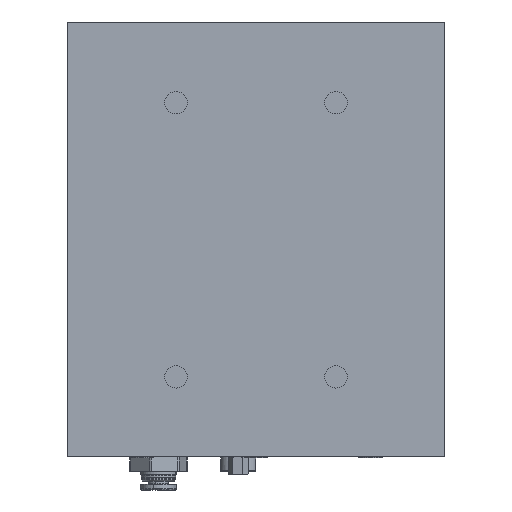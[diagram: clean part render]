
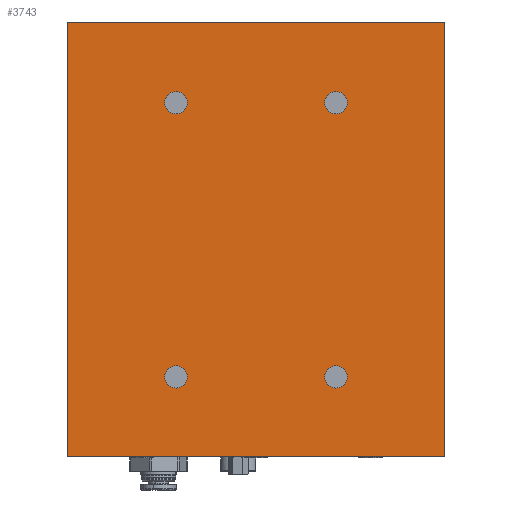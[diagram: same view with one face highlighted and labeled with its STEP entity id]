
A CAD part, left-side view. The second image highlights one B-rep face of the part: STEP entity #3743.
In plain terms, the highlighted planar face has unit normal (-1, 0, 0).
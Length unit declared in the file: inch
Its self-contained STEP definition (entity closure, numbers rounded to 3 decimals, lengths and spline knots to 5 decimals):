
#546 = DIRECTION ( 'NONE',  ( 0., 0., -1. ) ) ;
#632 = DIRECTION ( 'NONE',  ( -1., 0., 0. ) ) ;
#1120 = FACE_BOUND ( 'NONE', #7177, .T. ) ;
#1229 = CARTESIAN_POINT ( 'NONE',  ( -9.625, 2.9375, -1.37697 ) ) ;
#1510 = ORIENTED_EDGE ( 'NONE', *, *, #13545, .F. ) ;
#1697 = CARTESIAN_POINT ( 'NONE',  ( -9.625, 1.1875, -1.37697 ) ) ;
#1887 = DIRECTION ( 'NONE',  ( 0., 0., -1. ) ) ;
#1955 = EDGE_CURVE ( 'Defeatured_0_548+Defeatured_0_568+Defeatured_0_564+Defeatured_0_569', #22444, #22068, #7342, .T. ) ;
#2046 = VECTOR ( 'NONE', #8827, 39.37008 ) ;
#2128 = EDGE_CURVE ( 'Defeatured_0_548+Defeatured_0_569+Defeatured_0_568+Defeatured_0_547', #22068, #15939, #13067, .T. ) ;
#2336 = CARTESIAN_POINT ( 'NONE',  ( -9.625, 4.125, 2.375 ) ) ;
#2383 = VERTEX_POINT ( 'NONE', #1697 ) ;
#3063 = CARTESIAN_POINT ( 'NONE',  ( -9.625, 1.1875, 1.37697 ) ) ;
#3220 = AXIS2_PLACEMENT_3D ( 'NONE', #23718, #7415, #14685 ) ;
#3332 = CARTESIAN_POINT ( 'NONE',  ( -9.625, 1.1875, -1.5 ) ) ;
#3648 = CARTESIAN_POINT ( 'NONE',  ( -9.625, 0., -2.375 ) ) ;
#3743 = ADVANCED_FACE ( 'Defeatured_0_548', ( #1120, #15362, #10709, #20576, #13600 ), #4051, .T. ) ;
#3867 = CARTESIAN_POINT ( 'NONE',  ( -9.625, 1.1875, 1.62303 ) ) ;
#3907 = EDGE_CURVE ( 'Defeatured_0_548+Defeatured_0_564+Defeatured_0_547+Defeatured_0_568', #23270, #22444, #16783, .T. ) ;
#3999 = ORIENTED_EDGE ( 'NONE', *, *, #18753, .F. ) ;
#4051 = PLANE ( 'NONE',  #23693 ) ;
#4094 = VECTOR ( 'NONE', #23216, 39.37008 ) ;
#4377 = CIRCLE ( 'NONE', #19858, 0.12303 ) ;
#4450 = CARTESIAN_POINT ( 'NONE',  ( -9.625, 0., 2.375 ) ) ;
#4692 = DIRECTION ( 'NONE',  ( 0., 0., -1. ) ) ;
#5069 = CARTESIAN_POINT ( 'NONE',  ( -9.625, 2.9375, -1.62303 ) ) ;
#5488 = CIRCLE ( 'NONE', #15885, 0.12303 ) ;
#5526 = CARTESIAN_POINT ( 'NONE',  ( -9.625, 2.9375, -1.5 ) ) ;
#5925 = ORIENTED_EDGE ( 'NONE', *, *, #2128, .T. ) ;
#6051 = AXIS2_PLACEMENT_3D ( 'NONE', #19071, #632, #15489 ) ;
#6365 = EDGE_LOOP ( 'NONE', ( #5925, #12159, #23681, #22096 ) ) ;
#6372 = CARTESIAN_POINT ( 'NONE',  ( -9.625, 0., -2.375 ) ) ;
#6380 = AXIS2_PLACEMENT_3D ( 'NONE', #23081, #10026, #22931 ) ;
#6397 = EDGE_CURVE ( 'Defeatured_0_619+Defeatured_0_548+Defeatured_0_548+Defeatured_0_548', #23461, #19072, #20620, .T. ) ;
#6962 = VECTOR ( 'NONE', #23129, 39.37008 ) ;
#7177 = EDGE_LOOP ( 'NONE', ( #8355, #1510 ) ) ;
#7342 = LINE ( 'NONE', #4450, #2046 ) ;
#7415 = DIRECTION ( 'NONE',  ( -1., 0., 0. ) ) ;
#7423 = VERTEX_POINT ( 'NONE', #1229 ) ;
#8355 = ORIENTED_EDGE ( 'NONE', *, *, #20081, .F. ) ;
#8827 = DIRECTION ( 'NONE',  ( 0., 0., 1. ) ) ;
#8863 = VECTOR ( 'NONE', #4692, 39.37008 ) ;
#9125 = DIRECTION ( 'NONE',  ( -1., 0., 0. ) ) ;
#10026 = DIRECTION ( 'NONE',  ( -1., 0., 0. ) ) ;
#10078 = CARTESIAN_POINT ( 'NONE',  ( -9.625, 4.125, -2.375 ) ) ;
#10309 = DIRECTION ( 'NONE',  ( 0., 0., -1. ) ) ;
#10520 = CARTESIAN_POINT ( 'NONE',  ( -9.625, 4.125, 2.375 ) ) ;
#10709 = FACE_BOUND ( 'NONE', #22554, .T. ) ;
#10819 = ORIENTED_EDGE ( 'NONE', *, *, #12358, .F. ) ;
#10930 = DIRECTION ( 'NONE',  ( 0., 0., -1. ) ) ;
#11158 = CARTESIAN_POINT ( 'NONE',  ( -9.625, 2.9375, 1.5 ) ) ;
#11162 = CARTESIAN_POINT ( 'NONE',  ( -9.625, 2.9375, 1.5 ) ) ;
#11173 = DIRECTION ( 'NONE',  ( -1., 0., 0. ) ) ;
#11267 = CIRCLE ( 'NONE', #6380, 0.12303 ) ;
#11841 = DIRECTION ( 'NONE',  ( -1., 0., 0. ) ) ;
#11930 = EDGE_CURVE ( 'Defeatured_0_623+Defeatured_0_548+Defeatured_0_548+Defeatured_0_548', #2383, #18991, #11267, .T. ) ;
#12159 = ORIENTED_EDGE ( 'NONE', *, *, #23554, .T. ) ;
#12358 = EDGE_CURVE ( 'Defeatured_0_621+Defeatured_0_548+Defeatured_0_548+Defeatured_0_548', #7423, #18715, #18508, .T. ) ;
#12795 = CARTESIAN_POINT ( 'NONE',  ( -9.625, 0., 2.375 ) ) ;
#13067 = LINE ( 'NONE', #12795, #4094 ) ;
#13545 = EDGE_CURVE ( 'Defeatured_0_625+Defeatured_0_548+Defeatured_0_548+Defeatured_0_548', #14862, #19135, #15718, .T. ) ;
#13600 = FACE_OUTER_BOUND ( 'NONE', #6365, .T. ) ;
#13612 = CARTESIAN_POINT ( 'NONE',  ( -9.625, 2.9375, 1.62303 ) ) ;
#13840 = CARTESIAN_POINT ( 'NONE',  ( -9.625, 1.1875, 1.5 ) ) ;
#14123 = ORIENTED_EDGE ( 'NONE', *, *, #11930, .F. ) ;
#14538 = EDGE_LOOP ( 'NONE', ( #16159, #18812 ) ) ;
#14549 = CARTESIAN_POINT ( 'NONE',  ( -9.625, 0., 2.375 ) ) ;
#14685 = DIRECTION ( 'NONE',  ( 0., 0., -1. ) ) ;
#14862 = VERTEX_POINT ( 'NONE', #3867 ) ;
#14961 = DIRECTION ( 'NONE',  ( -1., 0., 0. ) ) ;
#15362 = FACE_BOUND ( 'NONE', #19843, .T. ) ;
#15489 = DIRECTION ( 'NONE',  ( 0., 0., -1. ) ) ;
#15508 = EDGE_CURVE ( 'Defeatured_0_621+Defeatured_0_548+Defeatured_0_548+Defeatured_0_548', #18715, #7423, #5488, .T. ) ;
#15718 = CIRCLE ( 'NONE', #3220, 0.12303 ) ;
#15753 = AXIS2_PLACEMENT_3D ( 'NONE', #11158, #14961, #18774 ) ;
#15885 = AXIS2_PLACEMENT_3D ( 'NONE', #5526, #11173, #10930 ) ;
#15939 = VERTEX_POINT ( 'NONE', #17109 ) ;
#16159 = ORIENTED_EDGE ( 'NONE', *, *, #6397, .F. ) ;
#16225 = DIRECTION ( 'NONE',  ( 0., 0., -1. ) ) ;
#16783 = LINE ( 'NONE', #6372, #6962 ) ;
#17109 = CARTESIAN_POINT ( 'NONE',  ( -9.625, 4.125, 2.375 ) ) ;
#17552 = AXIS2_PLACEMENT_3D ( 'NONE', #11162, #23842, #1887 ) ;
#18357 = CIRCLE ( 'NONE', #22275, 0.12303 ) ;
#18508 = CIRCLE ( 'NONE', #6051, 0.12303 ) ;
#18715 = VERTEX_POINT ( 'NONE', #5069 ) ;
#18753 = EDGE_CURVE ( 'Defeatured_0_623+Defeatured_0_548+Defeatured_0_548+Defeatured_0_548', #18991, #2383, #18357, .T. ) ;
#18774 = DIRECTION ( 'NONE',  ( 0., 0., -1. ) ) ;
#18812 = ORIENTED_EDGE ( 'NONE', *, *, #23759, .F. ) ;
#18991 = VERTEX_POINT ( 'NONE', #21222 ) ;
#19071 = CARTESIAN_POINT ( 'NONE',  ( -9.625, 2.9375, -1.5 ) ) ;
#19072 = VERTEX_POINT ( 'NONE', #13612 ) ;
#19135 = VERTEX_POINT ( 'NONE', #3063 ) ;
#19661 = ORIENTED_EDGE ( 'NONE', *, *, #15508, .F. ) ;
#19793 = CIRCLE ( 'NONE', #15753, 0.12303 ) ;
#19843 = EDGE_LOOP ( 'NONE', ( #3999, #14123 ) ) ;
#19858 = AXIS2_PLACEMENT_3D ( 'NONE', #13840, #21218, #10309 ) ;
#20081 = EDGE_CURVE ( 'Defeatured_0_625+Defeatured_0_548+Defeatured_0_548+Defeatured_0_548', #19135, #14862, #4377, .T. ) ;
#20176 = LINE ( 'NONE', #10520, #8863 ) ;
#20576 = FACE_BOUND ( 'NONE', #14538, .T. ) ;
#20620 = CIRCLE ( 'NONE', #17552, 0.12303 ) ;
#21218 = DIRECTION ( 'NONE',  ( -1., 0., 0. ) ) ;
#21222 = CARTESIAN_POINT ( 'NONE',  ( -9.625, 1.1875, -1.62303 ) ) ;
#22068 = VERTEX_POINT ( 'NONE', #14549 ) ;
#22096 = ORIENTED_EDGE ( 'NONE', *, *, #1955, .T. ) ;
#22275 = AXIS2_PLACEMENT_3D ( 'NONE', #3332, #9125, #16225 ) ;
#22444 = VERTEX_POINT ( 'NONE', #3648 ) ;
#22554 = EDGE_LOOP ( 'NONE', ( #19661, #10819 ) ) ;
#22931 = DIRECTION ( 'NONE',  ( 0., 0., -1. ) ) ;
#23081 = CARTESIAN_POINT ( 'NONE',  ( -9.625, 1.1875, -1.5 ) ) ;
#23129 = DIRECTION ( 'NONE',  ( 0., -1., 0. ) ) ;
#23216 = DIRECTION ( 'NONE',  ( 0., 1., 0. ) ) ;
#23270 = VERTEX_POINT ( 'NONE', #10078 ) ;
#23461 = VERTEX_POINT ( 'NONE', #23626 ) ;
#23554 = EDGE_CURVE ( 'Defeatured_0_548+Defeatured_0_547+Defeatured_0_569+Defeatured_0_564', #15939, #23270, #20176, .T. ) ;
#23626 = CARTESIAN_POINT ( 'NONE',  ( -9.625, 2.9375, 1.37697 ) ) ;
#23681 = ORIENTED_EDGE ( 'NONE', *, *, #3907, .T. ) ;
#23693 = AXIS2_PLACEMENT_3D ( 'NONE', #2336, #11841, #546 ) ;
#23718 = CARTESIAN_POINT ( 'NONE',  ( -9.625, 1.1875, 1.5 ) ) ;
#23759 = EDGE_CURVE ( 'Defeatured_0_619+Defeatured_0_548+Defeatured_0_548+Defeatured_0_548', #19072, #23461, #19793, .T. ) ;
#23842 = DIRECTION ( 'NONE',  ( -1., 0., 0. ) ) ;
